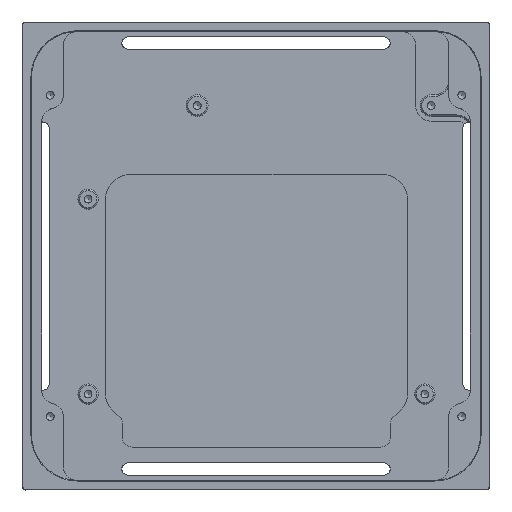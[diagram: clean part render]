
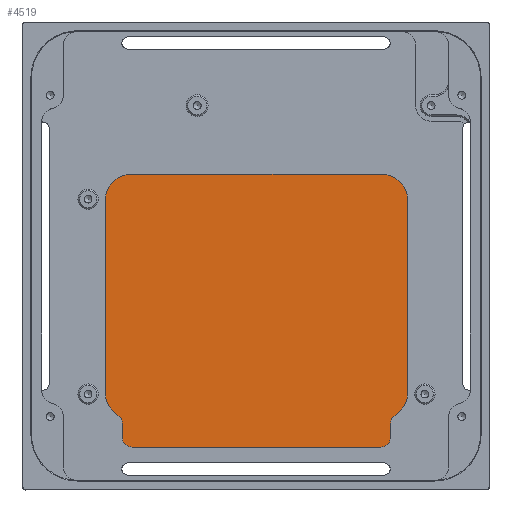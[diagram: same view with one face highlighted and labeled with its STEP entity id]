
A CAD part, top view. The second image highlights one B-rep face of the part: STEP entity #4519.
In plain terms, the highlighted planar face has unit normal (0, 0, 1).
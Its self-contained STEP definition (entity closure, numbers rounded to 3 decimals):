
#125=PLANE('',#4996);
#386=FACE_OUTER_BOUND('',#660,.T.);
#660=EDGE_LOOP('',(#3910,#3911,#3912,#3913,#3914,#3915,#3916,#3917,#3918,
#3919,#3920,#3921,#3922,#3923));
#941=LINE('',#8562,#1348);
#945=LINE('',#8571,#1352);
#947=LINE('',#8578,#1354);
#951=LINE('',#8590,#1358);
#954=LINE('',#8598,#1361);
#957=LINE('',#8606,#1364);
#1348=VECTOR('',#5781,1000.);
#1352=VECTOR('',#5791,1000.);
#1354=VECTOR('',#5799,1000.);
#1358=VECTOR('',#5813,1000.);
#1361=VECTOR('',#5822,1000.);
#1364=VECTOR('',#5831,1000.);
#1701=CIRCLE('',#4851,3.2);
#1702=CIRCLE('',#4854,3.2);
#1703=CIRCLE('',#4857,3.);
#1704=CIRCLE('',#4859,8.5);
#1705=CIRCLE('',#4862,8.5);
#1706=CIRCLE('',#4865,8.5);
#1707=CIRCLE('',#4868,8.5);
#1708=CIRCLE('',#4870,3.);
#2078=VERTEX_POINT('',#8559);
#2079=VERTEX_POINT('',#8561);
#2080=VERTEX_POINT('',#8565);
#2081=VERTEX_POINT('',#8569);
#2082=VERTEX_POINT('',#8573);
#2083=VERTEX_POINT('',#8577);
#2084=VERTEX_POINT('',#8581);
#2085=VERTEX_POINT('',#8585);
#2086=VERTEX_POINT('',#8589);
#2087=VERTEX_POINT('',#8593);
#2088=VERTEX_POINT('',#8597);
#2089=VERTEX_POINT('',#8601);
#2090=VERTEX_POINT('',#8605);
#2091=VERTEX_POINT('',#8609);
#2604=EDGE_CURVE('',#2079,#2078,#941,.T.);
#2607=EDGE_CURVE('',#2078,#2080,#1701,.T.);
#2609=EDGE_CURVE('',#2080,#2081,#945,.T.);
#2611=EDGE_CURVE('',#2081,#2082,#1702,.T.);
#2612=EDGE_CURVE('',#2082,#2083,#947,.T.);
#2614=EDGE_CURVE('',#2084,#2083,#1703,.T.);
#2617=EDGE_CURVE('',#2084,#2085,#1704,.T.);
#2618=EDGE_CURVE('',#2086,#2085,#951,.T.);
#2620=EDGE_CURVE('',#2086,#2087,#1705,.T.);
#2622=EDGE_CURVE('',#2088,#2087,#954,.T.);
#2625=EDGE_CURVE('',#2088,#2089,#1706,.T.);
#2626=EDGE_CURVE('',#2090,#2089,#957,.T.);
#2628=EDGE_CURVE('',#2090,#2091,#1707,.T.);
#2630=EDGE_CURVE('',#2079,#2091,#1708,.T.);
#3910=ORIENTED_EDGE('',*,*,#2630,.F.);
#3911=ORIENTED_EDGE('',*,*,#2604,.T.);
#3912=ORIENTED_EDGE('',*,*,#2607,.T.);
#3913=ORIENTED_EDGE('',*,*,#2609,.T.);
#3914=ORIENTED_EDGE('',*,*,#2611,.T.);
#3915=ORIENTED_EDGE('',*,*,#2612,.T.);
#3916=ORIENTED_EDGE('',*,*,#2614,.F.);
#3917=ORIENTED_EDGE('',*,*,#2617,.T.);
#3918=ORIENTED_EDGE('',*,*,#2618,.F.);
#3919=ORIENTED_EDGE('',*,*,#2620,.T.);
#3920=ORIENTED_EDGE('',*,*,#2622,.F.);
#3921=ORIENTED_EDGE('',*,*,#2625,.T.);
#3922=ORIENTED_EDGE('',*,*,#2626,.F.);
#3923=ORIENTED_EDGE('',*,*,#2628,.T.);
#4519=ADVANCED_FACE('',(#386),#125,.T.);
#4851=AXIS2_PLACEMENT_3D('',#8567,#5786,#5787);
#4854=AXIS2_PLACEMENT_3D('',#8575,#5795,#5796);
#4857=AXIS2_PLACEMENT_3D('',#8582,#5803,#5804);
#4859=AXIS2_PLACEMENT_3D('',#8587,#5809,#5810);
#4862=AXIS2_PLACEMENT_3D('',#8594,#5817,#5818);
#4865=AXIS2_PLACEMENT_3D('',#8603,#5827,#5828);
#4868=AXIS2_PLACEMENT_3D('',#8610,#5835,#5836);
#4870=AXIS2_PLACEMENT_3D('',#8613,#5840,#5841);
#4996=AXIS2_PLACEMENT_3D('',#9038,#6226,#6227);
#5781=DIRECTION('',(0.,-1.,0.));
#5786=DIRECTION('center_axis',(0.,0.,1.));
#5787=DIRECTION('ref_axis',(-1.,0.,0.));
#5791=DIRECTION('',(1.,0.,0.));
#5795=DIRECTION('center_axis',(0.,0.,1.));
#5796=DIRECTION('ref_axis',(-1.,0.,0.));
#5799=DIRECTION('',(0.,1.,0.));
#5803=DIRECTION('center_axis',(0.,0.,1.));
#5804=DIRECTION('ref_axis',(1.,0.,0.));
#5809=DIRECTION('center_axis',(0.,0.,1.));
#5810=DIRECTION('ref_axis',(1.,0.,0.));
#5813=DIRECTION('',(0.,-1.,0.));
#5817=DIRECTION('center_axis',(0.,0.,1.));
#5818=DIRECTION('ref_axis',(-1.,0.,0.));
#5822=DIRECTION('',(1.,0.,0.));
#5827=DIRECTION('center_axis',(0.,0.,1.));
#5828=DIRECTION('ref_axis',(1.,0.,0.));
#5831=DIRECTION('',(0.,1.,0.));
#5835=DIRECTION('center_axis',(0.,0.,1.));
#5836=DIRECTION('ref_axis',(-1.,0.,0.));
#5840=DIRECTION('center_axis',(0.,0.,1.));
#5841=DIRECTION('ref_axis',(-1.,0.,0.));
#6226=DIRECTION('center_axis',(0.,0.,1.));
#6227=DIRECTION('ref_axis',(1.,0.,0.));
#8559=CARTESIAN_POINT('',(-42.85,-58.05,2.7));
#8561=CARTESIAN_POINT('',(-42.85,-53.561,2.7));
#8562=CARTESIAN_POINT('',(-42.85,-61.25,2.7));
#8565=CARTESIAN_POINT('',(-39.65,-61.25,2.7));
#8567=CARTESIAN_POINT('Origin',(-39.65,-58.05,2.7));
#8569=CARTESIAN_POINT('',(39.95,-61.25,2.7));
#8571=CARTESIAN_POINT('',(43.15,-61.25,2.7));
#8573=CARTESIAN_POINT('',(43.15,-58.05,2.7));
#8575=CARTESIAN_POINT('Origin',(39.95,-58.05,2.7));
#8577=CARTESIAN_POINT('',(43.15,-53.561,2.7));
#8578=CARTESIAN_POINT('',(43.15,-51.703,2.7));
#8581=CARTESIAN_POINT('',(44.585,-51.001,2.7));
#8582=CARTESIAN_POINT('Origin',(46.15,-53.561,2.7));
#8585=CARTESIAN_POINT('',(48.65,-43.75,2.7));
#8587=CARTESIAN_POINT('Origin',(40.15,-43.75,2.7));
#8589=CARTESIAN_POINT('',(48.65,17.75,2.7));
#8590=CARTESIAN_POINT('',(48.65,18.75,2.7));
#8593=CARTESIAN_POINT('',(40.15,26.25,2.7));
#8594=CARTESIAN_POINT('Origin',(40.15,17.75,2.7));
#8597=CARTESIAN_POINT('',(-39.85,26.25,2.7));
#8598=CARTESIAN_POINT('',(-40.85,26.25,2.7));
#8601=CARTESIAN_POINT('',(-48.35,17.75,2.7));
#8603=CARTESIAN_POINT('Origin',(-39.85,17.75,2.7));
#8605=CARTESIAN_POINT('',(-48.35,-43.75,2.7));
#8606=CARTESIAN_POINT('',(-48.35,-44.75,2.7));
#8609=CARTESIAN_POINT('',(-44.285,-51.001,2.7));
#8610=CARTESIAN_POINT('Origin',(-39.85,-43.75,2.7));
#8613=CARTESIAN_POINT('Origin',(-45.85,-53.561,2.7));
#9038=CARTESIAN_POINT('Origin',(-48.35,26.25,2.7));
